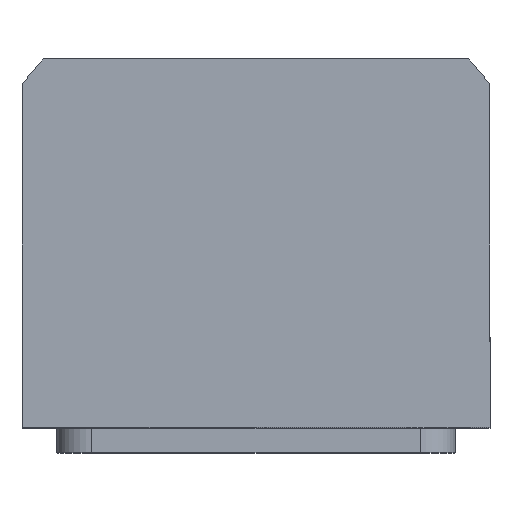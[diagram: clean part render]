
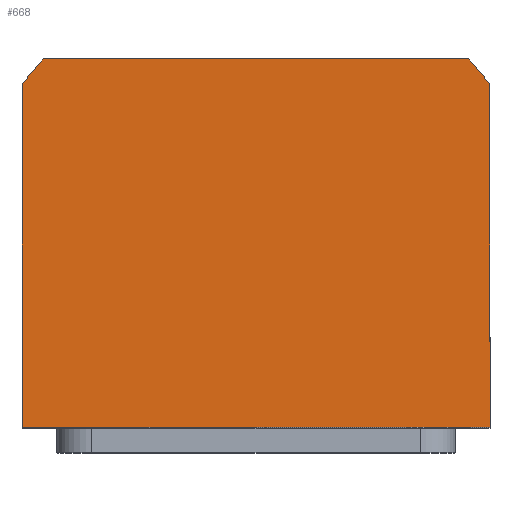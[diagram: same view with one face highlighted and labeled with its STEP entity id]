
A CAD part, top view. The second image highlights one B-rep face of the part: STEP entity #668.
In plain terms, the highlighted planar face has unit normal (0, 0, 1).
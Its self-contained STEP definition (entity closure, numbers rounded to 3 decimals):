
#377 = VERTEX_POINT ( 'NONE', #6252 ) ;
#487 = ORIENTED_EDGE ( 'NONE', *, *, #3456, .T. ) ;
#575 = DIRECTION ( 'NONE',  ( 1., 0., 0. ) ) ;
#617 = CARTESIAN_POINT ( 'NONE',  ( -42.688, 40., 60. ) ) ;
#666 = CARTESIAN_POINT ( 'NONE',  ( 47., -34., 60. ) ) ;
#668 = ADVANCED_FACE ( 'NONE', ( #11108 ), #2998, .T. ) ;
#819 = VERTEX_POINT ( 'NONE', #666 ) ;
#1020 = VECTOR ( 'NONE', #1140, 1000. ) ;
#1115 = ORIENTED_EDGE ( 'NONE', *, *, #2241, .T. ) ;
#1140 = DIRECTION ( 'NONE',  ( 0., -1., 0. ) ) ;
#1408 = DIRECTION ( 'NONE',  ( 1., 0., 0. ) ) ;
#1698 = CARTESIAN_POINT ( 'NONE',  ( -47., -34., 60. ) ) ;
#1746 = VERTEX_POINT ( 'NONE', #5366 ) ;
#2234 = VERTEX_POINT ( 'NONE', #3301 ) ;
#2241 = EDGE_CURVE ( 'NONE', #1746, #2234, #2781, .T. ) ;
#2517 = AXIS2_PLACEMENT_3D ( 'NONE', #9128, #10220, #575 ) ;
#2781 = LINE ( 'NONE', #617, #4540 ) ;
#2908 = LINE ( 'NONE', #3728, #5516 ) ;
#2965 = VERTEX_POINT ( 'NONE', #4391 ) ;
#2998 = PLANE ( 'NONE',  #2517 ) ;
#3301 = CARTESIAN_POINT ( 'NONE',  ( -42.688, 40., 60. ) ) ;
#3456 = EDGE_CURVE ( 'NONE', #4390, #819, #3962, .T. ) ;
#3728 = CARTESIAN_POINT ( 'NONE',  ( 47., 34.832, 60. ) ) ;
#3812 = AXIS2_PLACEMENT_3D ( 'NONE', #8327, #5821, #1408 ) ;
#3962 = LINE ( 'NONE', #10003, #6040 ) ;
#4105 = DIRECTION ( 'NONE',  ( -1., 0., 0. ) ) ;
#4390 = VERTEX_POINT ( 'NONE', #1698 ) ;
#4391 = CARTESIAN_POINT ( 'NONE',  ( 47., 34.832, 60. ) ) ;
#4540 = VECTOR ( 'NONE', #4105, 1000. ) ;
#4555 = EDGE_CURVE ( 'NONE', #2965, #1746, #7100, .T. ) ;
#4705 = EDGE_CURVE ( 'NONE', #2234, #377, #8939, .T. ) ;
#5366 = CARTESIAN_POINT ( 'NONE',  ( 42.688, 40., 60. ) ) ;
#5464 = ORIENTED_EDGE ( 'NONE', *, *, #5765, .T. ) ;
#5516 = VECTOR ( 'NONE', #10783, 1000. ) ;
#5765 = EDGE_CURVE ( 'NONE', #819, #2965, #2908, .T. ) ;
#5821 = DIRECTION ( 'NONE',  ( 0., 0., 1. ) ) ;
#6040 = VECTOR ( 'NONE', #6662, 1000. ) ;
#6252 = CARTESIAN_POINT ( 'NONE',  ( -47., 34.832, 60. ) ) ;
#6572 = ORIENTED_EDGE ( 'NONE', *, *, #7230, .T. ) ;
#6662 = DIRECTION ( 'NONE',  ( 1., 0., 0. ) ) ;
#6742 = LINE ( 'NONE', #9816, #1020 ) ;
#7100 = CIRCLE ( 'NONE', #3812, 58.5 ) ;
#7230 = EDGE_CURVE ( 'NONE', #377, #4390, #6742, .T. ) ;
#8327 = CARTESIAN_POINT ( 'NONE',  ( 0., 0., 60. ) ) ;
#8939 = CIRCLE ( 'NONE', #9688, 58.5 ) ;
#9128 = CARTESIAN_POINT ( 'NONE',  ( 0., 0., 60. ) ) ;
#9255 = ORIENTED_EDGE ( 'NONE', *, *, #4555, .T. ) ;
#9323 = DIRECTION ( 'NONE',  ( 0., 0., 1. ) ) ;
#9410 = CARTESIAN_POINT ( 'NONE',  ( 0., 0., 60. ) ) ;
#9524 = ORIENTED_EDGE ( 'NONE', *, *, #4705, .T. ) ;
#9648 = EDGE_LOOP ( 'NONE', ( #487, #5464, #9255, #1115, #9524, #6572 ) ) ;
#9688 = AXIS2_PLACEMENT_3D ( 'NONE', #9410, #9323, #11072 ) ;
#9816 = CARTESIAN_POINT ( 'NONE',  ( -47., -34., 60. ) ) ;
#10003 = CARTESIAN_POINT ( 'NONE',  ( 47., -34., 60. ) ) ;
#10220 = DIRECTION ( 'NONE',  ( 0., 0., 1. ) ) ;
#10783 = DIRECTION ( 'NONE',  ( 0., 1., 0. ) ) ;
#11072 = DIRECTION ( 'NONE',  ( 1., 0., 0. ) ) ;
#11108 = FACE_OUTER_BOUND ( 'NONE', #9648, .T. ) ;
